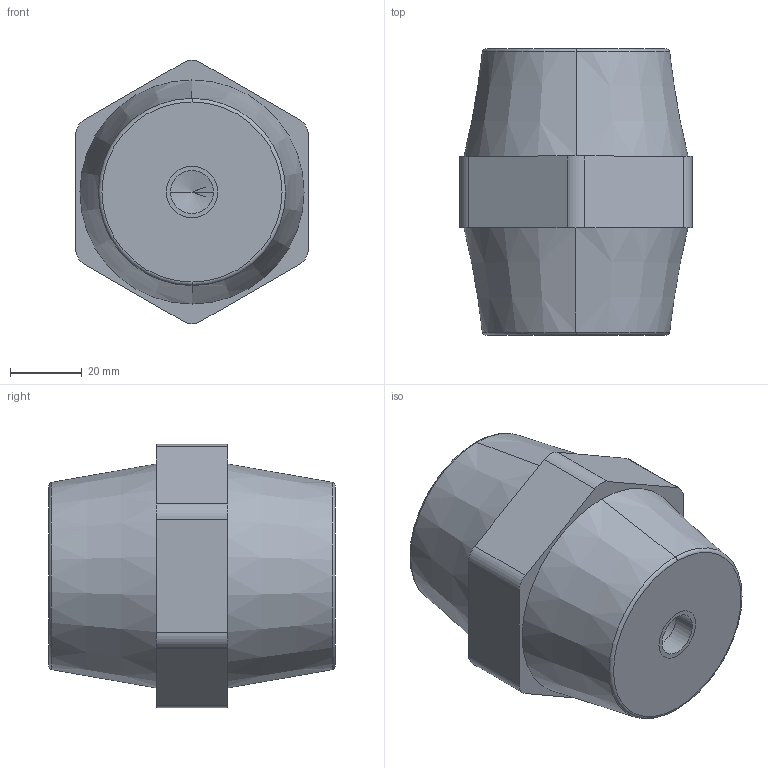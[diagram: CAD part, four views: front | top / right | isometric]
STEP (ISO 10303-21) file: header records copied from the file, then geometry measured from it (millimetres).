
FILE_DESCRIPTION (( 'STEP AP214' ), '1' );
FILE_NAME ('Isolatore 8071 65X80-M12.STEP', '2025-04-14T11:58:30', ( '' ), ( '' ), 'SwSTEP 2.0', 'SolidWorks 2020', '' );
FILE_SCHEMA (( 'AUTOMOTIVE_DESIGN' ));
Length unit declared in the file: millimetre
Products named in the file (1): Isolatore 8071 65X80-M12
Bounding box: 65 x 80 x 73.51 mm (x, y, z)
Volume: 224066.2 mm3; surface area: 26532.2 mm2
Topology: 3 solids, 3 shells, 87 faces, 191 edges, 116 vertices
Faces by surface type: cylinder 43, plane 24, cone 16, torus 4
Entity records: 2882 total; most frequent: DIRECTION 457, CARTESIAN_POINT 383, ORIENTED_EDGE 358, AXIS2_PLACEMENT_3D 190, EDGE_CURVE 179, VERTEX_POINT 116, EDGE_LOOP 105, CIRCLE 102
